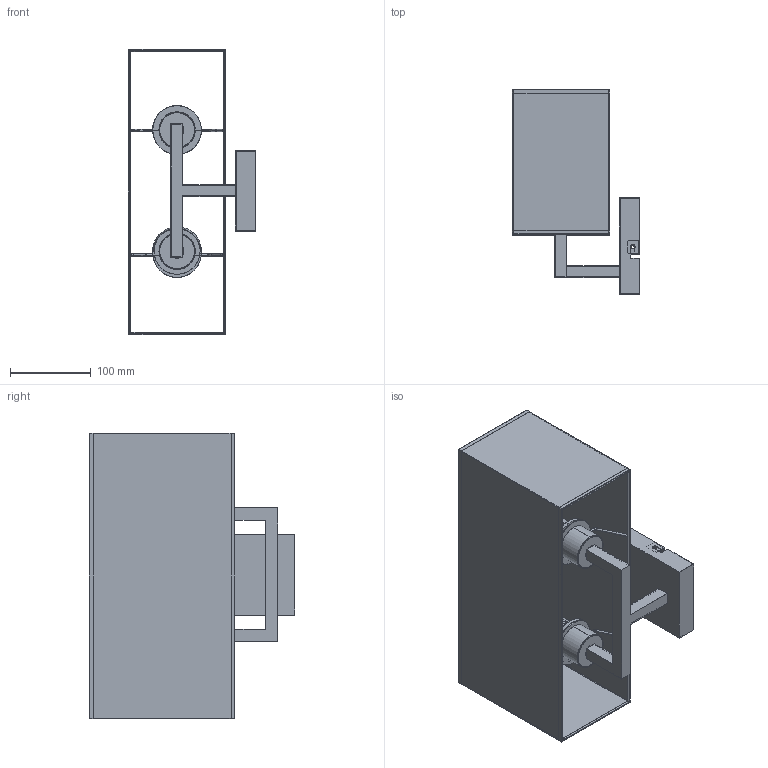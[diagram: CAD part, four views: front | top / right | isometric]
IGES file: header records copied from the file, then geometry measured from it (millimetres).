
Start section: SolidWorks IGES file using analytic representation for surfaces
Global section: file name: E:\3D lampy\Hotel\Hotel_4731.IGS; native system: SolidWorks 2016; preprocessor: SolidWorks 2016; author: Asia; date: 170929.135232; units: millimetre
Bounding box: 157.32 x 254.08 x 353.37 mm (x, y, z)
Surface area: 569046.8 mm2 (no closed solid volume)
Topology: 0 solids, 0 shells, 598 faces, 9288 edges, 9240 vertices
Faces by surface type: bspline 334, revolution 264
